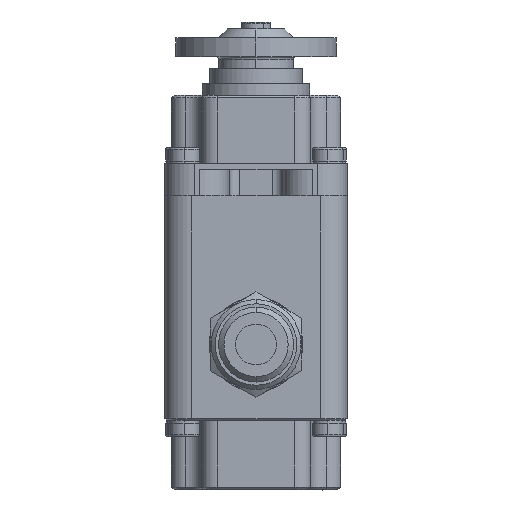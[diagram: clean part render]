
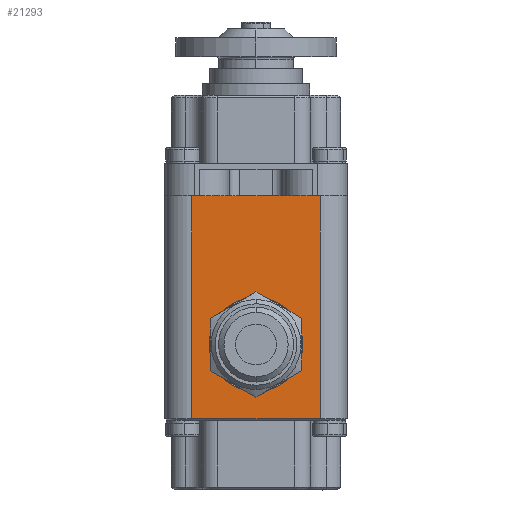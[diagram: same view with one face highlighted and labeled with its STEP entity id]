
A CAD part, front view. The second image highlights one B-rep face of the part: STEP entity #21293.
In plain terms, the highlighted planar face has unit normal (0, -1, 0).
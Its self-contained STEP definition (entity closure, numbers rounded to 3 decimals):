
#122 = EDGE_CURVE ( 'NONE', #24670, #9127, #15765, .T. ) ;
#2083 = CIRCLE ( 'NONE', #21153, 8.75 ) ;
#2157 = DIRECTION ( 'NONE',  ( 0., 0., -1. ) ) ;
#2295 = DIRECTION ( 'NONE',  ( 0., 1., 0. ) ) ;
#2314 = ORIENTED_EDGE ( 'NONE', *, *, #122, .T. ) ;
#2536 = CARTESIAN_POINT ( 'NONE',  ( 0., -17.3, -46.55 ) ) ;
#2752 = LINE ( 'NONE', #12236, #15417 ) ;
#2831 = VERTEX_POINT ( 'NONE', #11853 ) ;
#2869 = VERTEX_POINT ( 'NONE', #19633 ) ;
#3207 = DIRECTION ( 'NONE',  ( 0., -1., 0. ) ) ;
#3418 = EDGE_CURVE ( 'NONE', #2869, #9127, #4880, .T. ) ;
#4380 = CARTESIAN_POINT ( 'NONE',  ( -12., -17.3, -18.8 ) ) ;
#4880 = LINE ( 'NONE', #8187, #23126 ) ;
#5323 = EDGE_CURVE ( 'NONE', #2831, #15740, #6346, .T. ) ;
#6288 = ORIENTED_EDGE ( 'NONE', *, *, #3418, .F. ) ;
#6346 = CIRCLE ( 'NONE', #21742, 8.75 ) ;
#6623 = CARTESIAN_POINT ( 'NONE',  ( 0., -17.3, -37.8 ) ) ;
#7010 = FACE_OUTER_BOUND ( 'NONE', #18035, .T. ) ;
#7618 = DIRECTION ( 'NONE',  ( 0., 0., -1. ) ) ;
#7723 = DIRECTION ( 'NONE',  ( 0., 1., 0. ) ) ;
#8093 = ORIENTED_EDGE ( 'NONE', *, *, #13297, .F. ) ;
#8187 = CARTESIAN_POINT ( 'NONE',  ( 12., -17.3, -53.8 ) ) ;
#8539 = ORIENTED_EDGE ( 'NONE', *, *, #5323, .T. ) ;
#8914 = DIRECTION ( 'NONE',  ( 0., 0., -1. ) ) ;
#9127 = VERTEX_POINT ( 'NONE', #9729 ) ;
#9519 = DIRECTION ( 'NONE',  ( 1., 0., 0. ) ) ;
#9729 = CARTESIAN_POINT ( 'NONE',  ( 12., -17.3, -60.4 ) ) ;
#10169 = DIRECTION ( 'NONE',  ( 1., 0., 0. ) ) ;
#10271 = VECTOR ( 'NONE', #9519, 1000. ) ;
#10427 = EDGE_CURVE ( 'NONE', #14239, #24670, #2752, .T. ) ;
#10768 = AXIS2_PLACEMENT_3D ( 'NONE', #18960, #3207, #8914 ) ;
#11853 = CARTESIAN_POINT ( 'NONE',  ( 0., -17.3, -55.3 ) ) ;
#12111 = EDGE_CURVE ( 'NONE', #15740, #2831, #2083, .T. ) ;
#12236 = CARTESIAN_POINT ( 'NONE',  ( -12., -17.3, -53.8 ) ) ;
#12514 = LINE ( 'NONE', #17403, #10271 ) ;
#12885 = ORIENTED_EDGE ( 'NONE', *, *, #10427, .T. ) ;
#13067 = FACE_BOUND ( 'NONE', #24987, .T. ) ;
#13297 = EDGE_CURVE ( 'NONE', #14239, #2869, #12514, .T. ) ;
#14239 = VERTEX_POINT ( 'NONE', #4380 ) ;
#14367 = CARTESIAN_POINT ( 'NONE',  ( -12., -17.3, -60.4 ) ) ;
#15417 = VECTOR ( 'NONE', #20145, 1000. ) ;
#15740 = VERTEX_POINT ( 'NONE', #6623 ) ;
#15765 = LINE ( 'NONE', #21612, #21716 ) ;
#17403 = CARTESIAN_POINT ( 'NONE',  ( 10.5, -17.3, -18.8 ) ) ;
#18035 = EDGE_LOOP ( 'NONE', ( #6288, #8093, #12885, #2314 ) ) ;
#18960 = CARTESIAN_POINT ( 'NONE',  ( 12., -17.3, -53.8 ) ) ;
#19068 = PLANE ( 'NONE',  #10768 ) ;
#19165 = CARTESIAN_POINT ( 'NONE',  ( 0., -17.3, -46.55 ) ) ;
#19633 = CARTESIAN_POINT ( 'NONE',  ( 12., -17.3, -18.8 ) ) ;
#19871 = DIRECTION ( 'NONE',  ( 0., 0., -1. ) ) ;
#20145 = DIRECTION ( 'NONE',  ( 0., 0., -1. ) ) ;
#21153 = AXIS2_PLACEMENT_3D ( 'NONE', #19165, #7723, #7618 ) ;
#21190 = ORIENTED_EDGE ( 'NONE', *, *, #12111, .T. ) ;
#21293 = ADVANCED_FACE ( 'NONE', ( #7010, #13067 ), #19068, .T. ) ;
#21612 = CARTESIAN_POINT ( 'NONE',  ( 12., -17.3, -60.4 ) ) ;
#21716 = VECTOR ( 'NONE', #10169, 1000. ) ;
#21742 = AXIS2_PLACEMENT_3D ( 'NONE', #2536, #2295, #2157 ) ;
#23126 = VECTOR ( 'NONE', #19871, 1000. ) ;
#24670 = VERTEX_POINT ( 'NONE', #14367 ) ;
#24987 = EDGE_LOOP ( 'NONE', ( #8539, #21190 ) ) ;
